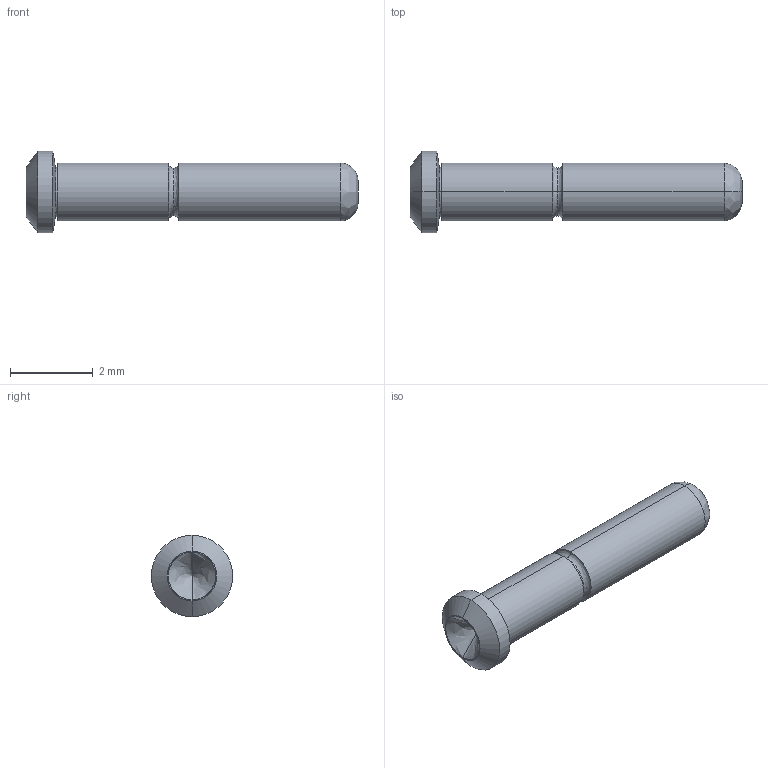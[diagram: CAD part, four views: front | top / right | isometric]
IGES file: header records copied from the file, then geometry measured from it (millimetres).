
Start section: SolidWorks IGES file using analytic representation for surfaces
Global section: file name: Z:\probe solid model mockups\Solidworks models\IGES Files\HPA-64\HPA-64-2 RECD.IGS; native system: SolidWorks 2006 by SolidWorks Corporation; preprocessor: SolidWorks 2006 by SolidWorks Corporation; author: tsakatani; date: 071220.100138; units: inch
Bounding box: 8 x 1.96 x 1.96 mm (x, y, z)
Surface area: 41.5 mm2 (no closed solid volume)
Topology: 0 solids, 0 shells, 23 faces, 160 edges, 158 vertices
Faces by surface type: revolution 14, bspline 9
